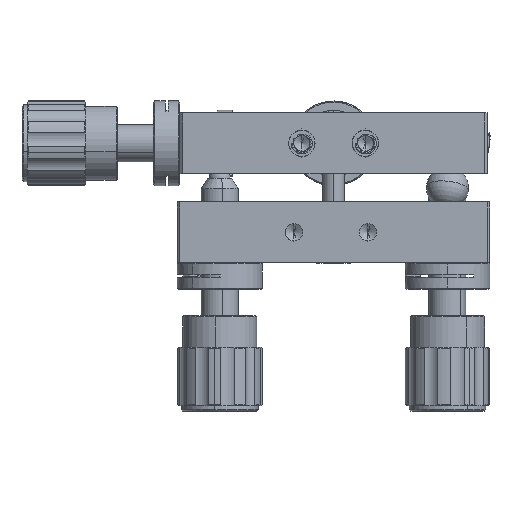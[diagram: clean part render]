
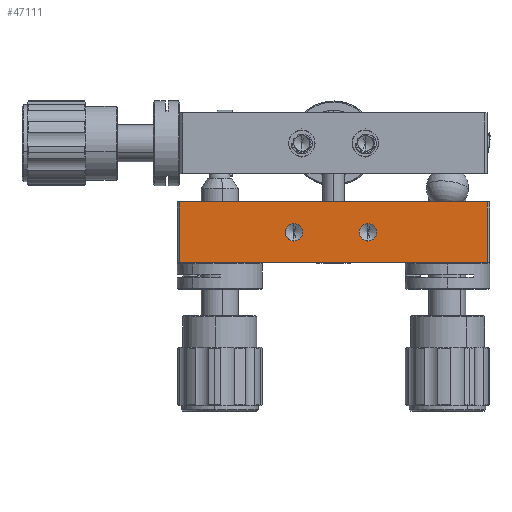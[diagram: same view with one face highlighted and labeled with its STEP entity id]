
A CAD part, left-side view. The second image highlights one B-rep face of the part: STEP entity #47111.
In plain terms, the highlighted planar face has unit normal (-1, 0, 0).
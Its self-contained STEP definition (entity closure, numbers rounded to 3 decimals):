
#266 = DIRECTION ( 'NONE',  ( 0., -1., 0. ) ) ;
#507 = VECTOR ( 'NONE', #43946, 1000. ) ;
#1253 = VERTEX_POINT ( 'NONE', #44115 ) ;
#1289 = EDGE_CURVE ( 'NONE', #29958, #1253, #10175, .T. ) ;
#1793 = CARTESIAN_POINT ( 'NONE',  ( -29.5, 7.5, 0. ) ) ;
#1955 = DIRECTION ( 'NONE',  ( -1., 0., 0. ) ) ;
#2109 = CIRCLE ( 'NONE', #31067, 1.65 ) ;
#3139 = DIRECTION ( 'NONE',  ( 0., 0., 1. ) ) ;
#4056 = AXIS2_PLACEMENT_3D ( 'NONE', #1793, #17593, #13707 ) ;
#4878 = CIRCLE ( 'NONE', #4056, 1.65 ) ;
#5844 = CARTESIAN_POINT ( 'NONE',  ( -29.5, 7.5, 0. ) ) ;
#6502 = VECTOR ( 'NONE', #7317, 1000. ) ;
#6526 = DIRECTION ( 'NONE',  ( 1., 0., 0. ) ) ;
#6773 = DIRECTION ( 'NONE',  ( -1., 0., 0. ) ) ;
#7045 = FACE_OUTER_BOUND ( 'NONE', #40376, .T. ) ;
#7317 = DIRECTION ( 'NONE',  ( 0., 0., 1. ) ) ;
#7327 = EDGE_CURVE ( 'NONE', #35464, #24268, #30853, .T. ) ;
#9303 = ORIENTED_EDGE ( 'NONE', *, *, #25519, .F. ) ;
#10175 = LINE ( 'NONE', #21056, #45543 ) ;
#10415 = CARTESIAN_POINT ( 'NONE',  ( -29.5, -29.5, 5.75 ) ) ;
#10428 = CARTESIAN_POINT ( 'NONE',  ( -29.5, -29., 5.75 ) ) ;
#11167 = AXIS2_PLACEMENT_3D ( 'NONE', #19228, #23884, #50537 ) ;
#11561 = EDGE_CURVE ( 'NONE', #25322, #46711, #2109, .T. ) ;
#11662 = ORIENTED_EDGE ( 'NONE', *, *, #1289, .T. ) ;
#11923 = LINE ( 'NONE', #39627, #12196 ) ;
#12196 = VECTOR ( 'NONE', #266, 1000. ) ;
#12393 = ORIENTED_EDGE ( 'NONE', *, *, #13316, .F. ) ;
#12429 = ORIENTED_EDGE ( 'NONE', *, *, #43037, .F. ) ;
#13316 = EDGE_CURVE ( 'NONE', #29958, #26324, #11923, .T. ) ;
#13707 = DIRECTION ( 'NONE',  ( 0., 0., 1. ) ) ;
#14423 = CARTESIAN_POINT ( 'NONE',  ( -29.5, -6.5, -1.65 ) ) ;
#15740 = EDGE_LOOP ( 'NONE', ( #32463, #12429 ) ) ;
#17593 = DIRECTION ( 'NONE',  ( -1., 0., 0. ) ) ;
#17916 = FACE_BOUND ( 'NONE', #40634, .T. ) ;
#18031 = ORIENTED_EDGE ( 'NONE', *, *, #44249, .T. ) ;
#19228 = CARTESIAN_POINT ( 'NONE',  ( -29.5, -6.5, 0. ) ) ;
#19761 = CARTESIAN_POINT ( 'NONE',  ( -29.5, -29., 5.75 ) ) ;
#21056 = CARTESIAN_POINT ( 'NONE',  ( -29.5, 29., 5.75 ) ) ;
#22549 = AXIS2_PLACEMENT_3D ( 'NONE', #5844, #1955, #30181 ) ;
#23837 = CARTESIAN_POINT ( 'NONE',  ( -29.5, -6.5, 1.65 ) ) ;
#23884 = DIRECTION ( 'NONE',  ( -1., 0., 0. ) ) ;
#24268 = VERTEX_POINT ( 'NONE', #42907 ) ;
#24842 = EDGE_CURVE ( 'NONE', #41530, #26324, #50001, .T. ) ;
#25251 = CIRCLE ( 'NONE', #11167, 1.65 ) ;
#25322 = VERTEX_POINT ( 'NONE', #23837 ) ;
#25519 = EDGE_CURVE ( 'NONE', #24268, #35464, #4878, .T. ) ;
#26324 = VERTEX_POINT ( 'NONE', #19761 ) ;
#26736 = PLANE ( 'NONE',  #27901 ) ;
#27561 = CARTESIAN_POINT ( 'NONE',  ( -29.5, 7.5, 1.65 ) ) ;
#27613 = CARTESIAN_POINT ( 'NONE',  ( -29.5, 29., 5.75 ) ) ;
#27901 = AXIS2_PLACEMENT_3D ( 'NONE', #10415, #6526, #49479 ) ;
#29958 = VERTEX_POINT ( 'NONE', #27613 ) ;
#30181 = DIRECTION ( 'NONE',  ( 0., 0., 1. ) ) ;
#30853 = CIRCLE ( 'NONE', #22549, 1.65 ) ;
#31067 = AXIS2_PLACEMENT_3D ( 'NONE', #50220, #6773, #3139 ) ;
#32463 = ORIENTED_EDGE ( 'NONE', *, *, #11561, .F. ) ;
#33722 = FACE_BOUND ( 'NONE', #15740, .T. ) ;
#35464 = VERTEX_POINT ( 'NONE', #27561 ) ;
#38876 = ORIENTED_EDGE ( 'NONE', *, *, #24842, .T. ) ;
#39154 = CARTESIAN_POINT ( 'NONE',  ( -29.5, -29., -5.75 ) ) ;
#39627 = CARTESIAN_POINT ( 'NONE',  ( -29.5, -29.5, 5.75 ) ) ;
#40376 = EDGE_LOOP ( 'NONE', ( #18031, #38876, #12393, #11662 ) ) ;
#40634 = EDGE_LOOP ( 'NONE', ( #50556, #9303 ) ) ;
#41530 = VERTEX_POINT ( 'NONE', #39154 ) ;
#42907 = CARTESIAN_POINT ( 'NONE',  ( -29.5, 7.5, -1.65 ) ) ;
#43037 = EDGE_CURVE ( 'NONE', #46711, #25322, #25251, .T. ) ;
#43683 = CARTESIAN_POINT ( 'NONE',  ( -29.5, -29.5, -5.75 ) ) ;
#43946 = DIRECTION ( 'NONE',  ( 0., -1., 0. ) ) ;
#44115 = CARTESIAN_POINT ( 'NONE',  ( -29.5, 29., -5.75 ) ) ;
#44249 = EDGE_CURVE ( 'NONE', #1253, #41530, #44450, .T. ) ;
#44450 = LINE ( 'NONE', #43683, #507 ) ;
#45543 = VECTOR ( 'NONE', #48491, 1000. ) ;
#46711 = VERTEX_POINT ( 'NONE', #14423 ) ;
#47111 = ADVANCED_FACE ( 'NONE', ( #17916, #33722, #7045 ), #26736, .F. ) ;
#48491 = DIRECTION ( 'NONE',  ( 0., 0., -1. ) ) ;
#49479 = DIRECTION ( 'NONE',  ( 0., 1., 0. ) ) ;
#50001 = LINE ( 'NONE', #10428, #6502 ) ;
#50220 = CARTESIAN_POINT ( 'NONE',  ( -29.5, -6.5, 0. ) ) ;
#50537 = DIRECTION ( 'NONE',  ( 0., 0., 1. ) ) ;
#50556 = ORIENTED_EDGE ( 'NONE', *, *, #7327, .F. ) ;
